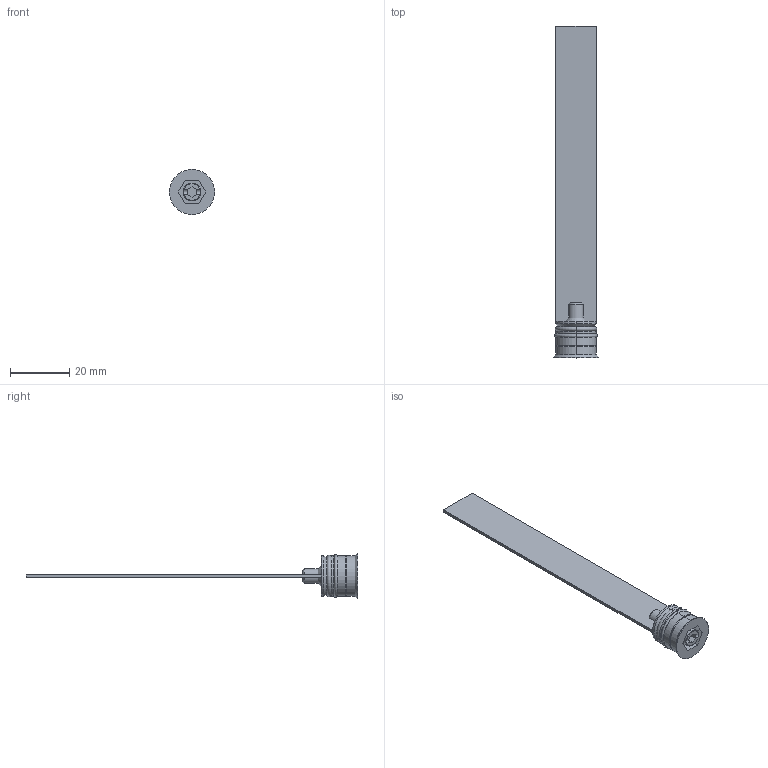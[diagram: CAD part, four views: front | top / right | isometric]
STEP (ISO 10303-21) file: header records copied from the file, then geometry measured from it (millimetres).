
FILE_DESCRIPTION (( 'STEP AP203' ), '1' );
FILE_NAME ('RL-14Fx100.STEP', '2015-12-02T10:31:48', ( 'Balzi' ), ( '' ), 'SwSTEP 2.0', 'SolidWorks 2015', '' );
FILE_SCHEMA (( 'CONFIG_CONTROL_DESIGN' ));
Length unit declared in the file: millimetre
Products named in the file (1): RL-14Fx100
Bounding box: 15.3 x 112.5 x 15.3 mm (x, y, z)
Volume: 3234.8 mm3; surface area: 4235.8 mm2
Topology: 1 solids, 1 shells, 72 faces, 171 edges, 105 vertices
Faces by surface type: plane 30, cylinder 17, cone 17, torus 8
Entity records: 2165 total; most frequent: CARTESIAN_POINT 399, DIRECTION 370, ORIENTED_EDGE 342, EDGE_CURVE 171, AXIS2_PLACEMENT_3D 140, VERTEX_POINT 105, LINE 90, VECTOR 90
